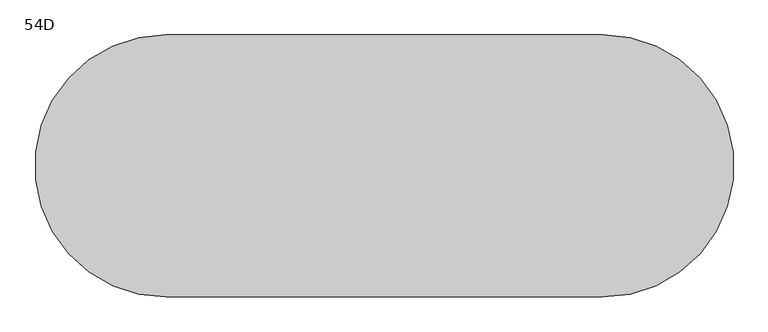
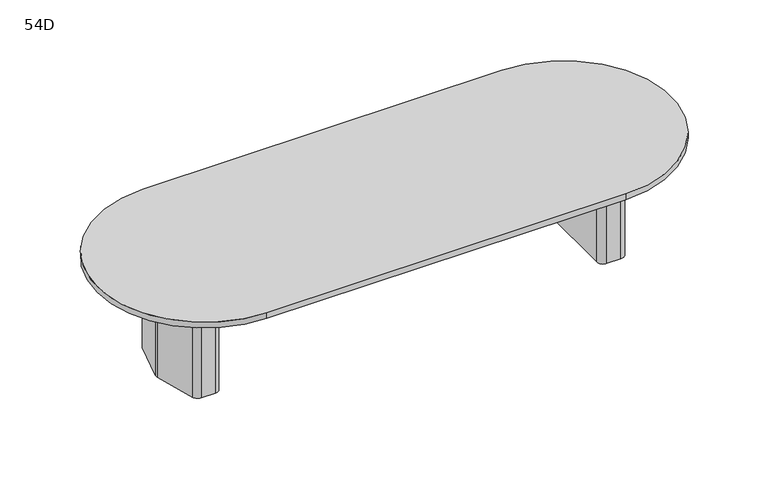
"""IFC4 building model written with IfcOpenShell, lengths in millimetres: furniture geometry, Coalesse_AM_Table_Conference_ETable2_Racetrack_12ft_TwoBase : 54D."""

from ifc_helpers import new_model, si_unit, point, frame, frame_2d, origin, place, context, project, spatial, polyline, circle_curve, trimmed, segment, composite_curve, outline, extrude, source, transform, mapped, element, save
from ifc_brep_helpers import plane_surface, cylinder_surface, revolved_surface, advanced_brep


def furniture_54d_fdcc5884(model_context):
    return source(origin(), model_context, "Body", "SolidModel", [
        advanced_brep(
        [(1370.224548, 274.2093613, 698.5), (1330.3579246, 304.8, 698.5), (1241.425, 304.8, 698.5), (1200.15, 263.525, 698.5), (1200.15, -263.525, 698.5), (1241.425, -304.8, 698.5), (1330.3579246, -304.8, 698.5), (1370.224548, -274.2093613, 698.5), (1440.8503901, -10.6333708, 698.5), (1440.8503901, 10.6333708, 698.5), (1238.25, -206.375, 698.5), (1238.25, 206.375, 698.5), (1263.65, 231.775, 698.5), (1322.6608422, 231.775, 698.5), (1347.195338, 212.9490792, 698.5), (1385.8875, 68.54974, 698.5), (1385.8875, -68.54974, 698.5), (1347.195338, -212.9490792, 698.5), (1322.6608422, -231.775, 698.5), (1263.65, -231.775, 698.5), (1370.224548, 274.2093613, 3.175), (1440.8503901, 10.6333708, 3.175), (1440.8503901, -10.6333708, 3.175), (1370.224548, -274.2093613, 3.175), (1330.3579246, -304.8, 3.175), (1241.425, -304.8, 3.175), (1200.15, -263.525, 3.175), (1200.15, 263.525, 3.175), (1241.425, 304.8, 3.175), (1330.3579246, 304.8, 3.175), (1359.4625859, 216.2361187, 3.175), (1322.6608422, 244.475, 3.175), (1263.65, 244.475, 3.175), (1225.55, 206.375, 3.175), (1225.55, -206.375, 3.175), (1263.65, -244.475, 3.175), (1322.6608422, -244.475, 3.175), (1359.4625859, -216.2361187, 3.175), (1398.5875, -70.2217466, 3.175), (1398.5875, 70.2217466, 3.175), (1263.65, -231.775, 3.175), (1238.25, -206.375, 3.175), (1322.6608422, -231.775, 3.175), (1347.195338, -212.9490792, 3.175), (1385.8875, -68.54974, 3.175), (1385.8875, 68.54974, 3.175), (1347.195338, 212.9490792, 3.175), (1322.6608422, 231.775, 3.175), (1263.65, 231.775, 3.175), (1238.25, 206.375, 3.175), (1359.4625859, 216.2361187, 0.0), (1398.5875, 70.2217466, 0.0), (1398.5875, -70.2217466, 0.0), (1359.4625859, -216.2361187, 0.0), (1322.6608422, -244.475, 0.0), (1263.65, -244.475, 0.0), (1225.55, -206.375, 0.0), (1225.55, 206.375, 0.0), (1263.65, 244.475, 0.0), (1322.6608422, 244.475, 0.0)],
        [
            (0, 1, circle_curve(frame((1330.3579246, 263.5270004, 698.5), z_axis=(0.0, 0.0, 1.0), x_axis=(-1.0, 0.0, 0.0)), 41.2729996)),
            (1, 2),
            (2, 3, circle_curve(frame((1241.425, 263.525, 698.5), z_axis=(0.0, 0.0, 1.0), x_axis=(-1.0, 0.0, 0.0)), 41.275)),
            (3, 4),
            (4, 5, circle_curve(frame((1241.425, -263.525, 698.5), z_axis=(0.0, 0.0, 1.0), x_axis=(-1.0, 0.0, 0.0)), 41.275)),
            (5, 6),
            (6, 7, circle_curve(frame((1330.3579246, -263.5270004, 698.5), z_axis=(0.0, 0.0, 1.0), x_axis=(-1.0, 0.0, 0.0)), 41.2729996)),
            (7, 8),
            (8, 9, circle_curve(frame((1401.1665979, 0.0, 698.5), z_axis=(0.0, 0.0, 1.0), x_axis=(-1.0, 0.0, 0.0)), 41.0837187)),
            (9, 0),
            (10, 11),
            (11, 12, circle_curve(frame((1263.65, 206.375, 698.5), z_axis=(0.0, 0.0, -1.0), x_axis=(-1.0, 0.0, 0.0)), 25.4)),
            (12, 13),
            (13, 14, circle_curve(frame((1322.6608422, 206.375, 698.5), z_axis=(0.0, 0.0, -1.0), x_axis=(-1.0, 0.0, 0.0)), 25.4)),
            (14, 15),
            (15, 16),
            (16, 17),
            (17, 18, circle_curve(frame((1322.6608422, -206.375, 698.5), z_axis=(0.0, 0.0, -1.0), x_axis=(-1.0, 0.0, 0.0)), 25.4)),
            (18, 19),
            (19, 10, circle_curve(frame((1263.65, -206.375, 698.5), z_axis=(0.0, 0.0, -1.0), x_axis=(-1.0, 0.0, 0.0)), 25.4)),
            (20, 21),
            (21, 22, circle_curve(frame((1401.1665979, 0.0, 3.175), z_axis=(0.0, 0.0, -1.0), x_axis=(-1.0, 0.0, 0.0)), 41.0837187)),
            (22, 23),
            (23, 24, circle_curve(frame((1330.3579246, -263.5270004, 3.175), z_axis=(0.0, 0.0, -1.0), x_axis=(-1.0, 0.0, 0.0)), 41.2729996)),
            (24, 25),
            (25, 26, circle_curve(frame((1241.425, -263.525, 3.175), z_axis=(0.0, 0.0, -1.0), x_axis=(-1.0, 0.0, 0.0)), 41.275)),
            (26, 27),
            (27, 28, circle_curve(frame((1241.425, 263.525, 3.175), z_axis=(0.0, 0.0, -1.0), x_axis=(-1.0, 0.0, 0.0)), 41.275)),
            (28, 29),
            (29, 20, circle_curve(frame((1330.3579246, 263.5270004, 3.175), z_axis=(0.0, 0.0, -1.0), x_axis=(-1.0, 0.0, 0.0)), 41.2729996)),
            (30, 31, circle_curve(frame((1322.6608422, 206.375, 3.175), z_axis=(0.0, 0.0, 1.0), x_axis=(-1.0, 0.0, 0.0)), 38.1)),
            (31, 32),
            (32, 33, circle_curve(frame((1263.65, 206.375, 3.175), z_axis=(0.0, 0.0, 1.0), x_axis=(-1.0, 0.0, 0.0)), 38.1)),
            (33, 34),
            (34, 35, circle_curve(frame((1263.65, -206.375, 3.175), z_axis=(0.0, 0.0, 1.0), x_axis=(-1.0, 0.0, 0.0)), 38.1)),
            (35, 36),
            (36, 37, circle_curve(frame((1322.6608422, -206.375, 3.175), z_axis=(0.0, 0.0, 1.0), x_axis=(-1.0, 0.0, 0.0)), 38.1)),
            (37, 38),
            (38, 39),
            (39, 30),
            (9, 21),
            (20, 0),
            (8, 22),
            (7, 23),
            (6, 24),
            (5, 25),
            (4, 26),
            (3, 27),
            (2, 28),
            (1, 29),
            (19, 40),
            (40, 41, circle_curve(frame((1263.65, -206.375, 3.175), z_axis=(0.0, 0.0, -1.0), x_axis=(-1.0, 0.0, 0.0)), 25.4)),
            (41, 10),
            (18, 42),
            (42, 40),
            (17, 43),
            (43, 42, circle_curve(frame((1322.6608422, -206.375, 3.175), z_axis=(0.0, 0.0, -1.0), x_axis=(-1.0, 0.0, 0.0)), 25.4)),
            (16, 44),
            (44, 43),
            (15, 45),
            (45, 44),
            (14, 46),
            (46, 45),
            (13, 47),
            (47, 46, circle_curve(frame((1322.6608422, 206.375, 3.175), z_axis=(0.0, 0.0, -1.0), x_axis=(-1.0, 0.0, 0.0)), 25.4)),
            (12, 48),
            (48, 47),
            (11, 49),
            (49, 48, circle_curve(frame((1263.65, 206.375, 3.175), z_axis=(0.0, 0.0, -1.0), x_axis=(-1.0, 0.0, 0.0)), 25.4)),
            (41, 49),
            (50, 51),
            (51, 52),
            (52, 53),
            (53, 54, circle_curve(frame((1322.6608422, -206.375, 0.0), z_axis=(0.0, 0.0, -1.0), x_axis=(-1.0, 0.0, 0.0)), 38.1)),
            (54, 55),
            (55, 56, circle_curve(frame((1263.65, -206.375, 0.0), z_axis=(0.0, 0.0, -1.0), x_axis=(-1.0, 0.0, 0.0)), 38.1)),
            (56, 57),
            (57, 58, circle_curve(frame((1263.65, 206.375, 0.0), z_axis=(0.0, 0.0, -1.0), x_axis=(-1.0, 0.0, 0.0)), 38.1)),
            (58, 59),
            (59, 50, circle_curve(frame((1322.6608422, 206.375, 0.0), z_axis=(0.0, 0.0, -1.0), x_axis=(-1.0, 0.0, 0.0)), 38.1)),
            (50, 30),
            (39, 51),
            (38, 52),
            (37, 53),
            (36, 54),
            (35, 55),
            (34, 56),
            (33, 57),
            (32, 58),
            (31, 59),
        ],
        [
            plane_surface(frame((1440.8374275, 10.6817473, 698.5), z_axis=(0.0, 0.0, 1.0000000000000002), x_axis=(0.25882201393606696, -0.9659250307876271, 0.0))),
            plane_surface(frame((1440.8374275, 10.6817473, 3.175), z_axis=(0.0, 0.0, -1.0000000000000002), x_axis=(-0.25882201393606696, 0.9659250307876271, 0.0))),
            plane_surface(frame((1370.224548, 274.2093613, 698.5), z_axis=(0.9659250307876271, 0.25882201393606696, 0.0), x_axis=(0.0, 0.0, -1.0))),
            cylinder_surface(frame((1401.1665979, 0.0, 3.175), z_axis=(0.0, 0.0, 1.0), x_axis=(-1.0, 0.0, 0.0)), 41.0837187),
            plane_surface(frame((1440.8503901, -10.6333708, 698.5), z_axis=(0.9659250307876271, -0.2588220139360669, 0.0), x_axis=(0.0, 0.0, -1.0))),
            cylinder_surface(frame((1330.3579246, -263.5270004, 3.175), z_axis=(0.0, 0.0, 1.0), x_axis=(-1.0, 0.0, 0.0)), 41.2729996),
            plane_surface(frame((1330.3579246, -304.8, 698.5), z_axis=(0.0, -1.0, 0.0), x_axis=(0.0, 0.0, -1.0))),
            cylinder_surface(frame((1241.425, -263.525, 3.175), z_axis=(0.0, 0.0, 1.0), x_axis=(-1.0, 0.0, 0.0)), 41.275),
            plane_surface(frame((1200.15, -263.525, 698.5), z_axis=(-1.0, 0.0, 0.0), x_axis=(0.0, 0.0, -1.0))),
            cylinder_surface(frame((1241.425, 263.525, 3.175), z_axis=(0.0, 0.0, 1.0), x_axis=(-1.0, 0.0, 0.0)), 41.275),
            plane_surface(frame((1241.425, 304.8, 698.5), z_axis=(0.0, 1.0, 0.0), x_axis=(0.0, 0.0, -1.0))),
            cylinder_surface(frame((1330.3579246, 263.5270004, 3.175), z_axis=(0.0, 0.0, 1.0), x_axis=(-1.0, 0.0, 0.0)), 41.2729996),
            revolved_surface(polyline([(1238.25, -206.375, 3.175), (1238.25, -206.375, 698.5)]), (1263.65, -206.375, 0.0), (0.0, 0.0, -1.0)),
            plane_surface(frame((1263.65, -231.775, 698.5), z_axis=(0.0, 1.0, 0.0), x_axis=(0.0, 0.0, -1.0))),
            revolved_surface(polyline([(1297.2608421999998, -206.375, 3.175), (1297.2608421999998, -206.375, 698.5)]), (1322.6608422, -206.375, 0.0), (0.0, 0.0, -1.0)),
            plane_surface(frame((1347.195338, -212.9490792, 698.5), z_axis=(-0.9659250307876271, 0.2588220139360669, 0.0), x_axis=(0.0, 0.0, -1.0))),
            plane_surface(frame((1385.8875, -68.54974, 698.5), z_axis=(-1.0, 0.0, 0.0), x_axis=(0.0, 0.0, -1.0))),
            plane_surface(frame((1385.8875, 68.54974, 698.5), z_axis=(-0.9659250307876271, -0.25882201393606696, 0.0), x_axis=(0.0, 0.0, -1.0))),
            revolved_surface(polyline([(1297.2608421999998, 206.375, 3.175), (1297.2608421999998, 206.375, 698.5)]), (1322.6608422, 206.375, 0.0), (0.0, 0.0, -1.0)),
            plane_surface(frame((1322.6608422, 231.775, 698.5), z_axis=(0.0, -1.0, 0.0), x_axis=(0.0, 0.0, -1.0))),
            revolved_surface(polyline([(1238.25, 206.375, 3.175), (1238.25, 206.375, 698.5)]), (1263.65, 206.375, 0.0), (0.0, 0.0, -1.0)),
            plane_surface(frame((1238.25, 206.375, 698.5), z_axis=(1.0, 0.0, 0.0), x_axis=(0.0, 0.0, -1.0))),
            plane_surface(frame((1398.1547479, 71.8367796, 3.175), z_axis=(0.0, 0.0, 1.0), x_axis=(0.25882201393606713, -0.965925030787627, 0.0))),
            plane_surface(frame((1398.1547479, 71.8367796, 0.0), z_axis=(0.0, 0.0, -1.0), x_axis=(-0.25882201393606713, 0.965925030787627, 0.0))),
            plane_surface(frame((1359.4625859, 216.2361187, 3.175), z_axis=(0.965925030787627, 0.25882201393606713, 0.0), x_axis=(0.0, 0.0, -1.0))),
            plane_surface(frame((1398.5875, 70.2217466, 3.175), z_axis=(1.0, 0.0, 0.0), x_axis=(0.0, 0.0, -1.0))),
            plane_surface(frame((1398.5875, -70.2217466, 3.175), z_axis=(0.9659250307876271, -0.2588220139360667, 0.0), x_axis=(0.0, 0.0, -1.0))),
            cylinder_surface(frame((1322.6608422, -206.375, 0.0), z_axis=(0.0, 0.0, 1.0), x_axis=(-1.0, 0.0, 0.0)), 38.1),
            plane_surface(frame((1322.6608422, -244.475, 3.175), z_axis=(0.0, -1.0, 0.0), x_axis=(0.0, 0.0, -1.0))),
            cylinder_surface(frame((1263.65, -206.375, 0.0), z_axis=(0.0, 0.0, 1.0), x_axis=(-1.0, 0.0, 0.0)), 38.1),
            plane_surface(frame((1225.55, -206.375, 3.175), z_axis=(-1.0, 0.0, 0.0), x_axis=(0.0, 0.0, -1.0))),
            cylinder_surface(frame((1263.65, 206.375, 0.0), z_axis=(0.0, 0.0, 1.0), x_axis=(-1.0, 0.0, 0.0)), 38.1),
            plane_surface(frame((1263.65, 244.475, 3.175), z_axis=(0.0, 1.0, 0.0), x_axis=(0.0, 0.0, -1.0))),
            cylinder_surface(frame((1322.6608422, 206.375, 0.0), z_axis=(0.0, 0.0, 1.0), x_axis=(-1.0, 0.0, 0.0)), 38.1),
        ],
        [
            (0, [[1, 2, 3, 4, 5, 6, 7, 8, 9, 10], [11, 12, 13, 14, 15, 16, 17, 18, 19, 20]]),
            (1, [[21, 22, 23, 24, 25, 26, 27, 28, 29, 30], [31, 32, 33, 34, 35, 36, 37, 38, 39, 40]]),
            (2, [[41, -21, 42, -10]]),
            (3, [[43, -22, -41, -9]]),
            (4, [[44, -23, -43, -8]]),
            (5, [[45, -24, -44, -7]]),
            (6, [[46, -25, -45, -6]]),
            (7, [[47, -26, -46, -5]]),
            (8, [[48, -27, -47, -4]]),
            (9, [[49, -28, -48, -3]]),
            (10, [[50, -29, -49, -2]]),
            (11, [[-42, -30, -50, -1]]),
            (12, [[51, 52, 53, -20]]),
            (13, [[54, 55, -51, -19]]),
            (14, [[56, 57, -54, -18]]),
            (15, [[58, 59, -56, -17]]),
            (16, [[60, 61, -58, -16]]),
            (17, [[62, 63, -60, -15]]),
            (18, [[64, 65, -62, -14]]),
            (19, [[66, 67, -64, -13]]),
            (20, [[68, 69, -66, -12]]),
            (21, [[-53, 70, -68, -11]]),
            (22, [[-55, -57, -59, -61, -63, -65, -67, -69, -70, -52]]),
            (23, [[71, 72, 73, 74, 75, 76, 77, 78, 79, 80]]),
            (24, [[81, -40, 82, -71]]),
            (25, [[-82, -39, 83, -72]]),
            (26, [[-83, -38, 84, -73]]),
            (27, [[-84, -37, 85, -74]]),
            (28, [[-85, -36, 86, -75]]),
            (29, [[-86, -35, 87, -76]]),
            (30, [[-87, -34, 88, -77]]),
            (31, [[-88, -33, 89, -78]]),
            (32, [[-89, -32, 90, -79]]),
            (33, [[-90, -31, -81, -80]]),
        ],
    ),
        advanced_brep(
        [(-1381.337048, 274.2093613, 698.5), (-1451.9628901, 10.6333708, 698.5), (-1451.9628901, -10.6333708, 698.5), (-1381.337048, -274.2093613, 698.5), (-1341.4704246, -304.8, 698.5), (-1252.5375, -304.8, 698.5), (-1211.2625, -263.525, 698.5), (-1211.2625, 263.525, 698.5), (-1252.5375, 304.8, 698.5), (-1341.4704246, 304.8, 698.5), (-1249.3625, -206.375, 698.5), (-1274.7625, -231.775, 698.5), (-1333.7733422, -231.775, 698.5), (-1358.307838, -212.9490792, 698.5), (-1397.0, -68.54974, 698.5), (-1397.0, 68.54974, 698.5), (-1358.307838, 212.9490792, 698.5), (-1333.7733422, 231.775, 698.5), (-1274.7625, 231.775, 698.5), (-1249.3625, 206.375, 698.5), (-1381.337048, 274.2093613, 3.175), (-1341.4704246, 304.8, 3.175), (-1252.5375, 304.8, 3.175), (-1211.2625, 263.525, 3.175), (-1211.2625, -263.525, 3.175), (-1252.5375, -304.8, 3.175), (-1341.4704246, -304.8, 3.175), (-1381.337048, -274.2093613, 3.175), (-1451.9628901, -10.6333708, 3.175), (-1451.9628901, 10.6333708, 3.175), (-1370.5750859, 216.2361187, 3.175), (-1409.7, 70.2217466, 3.175), (-1409.7, -70.2217466, 3.175), (-1370.5750859, -216.2361187, 3.175), (-1333.7733422, -244.475, 3.175), (-1274.7625, -244.475, 3.175), (-1236.6625, -206.375, 3.175), (-1236.6625, 206.375, 3.175), (-1274.7625, 244.475, 3.175), (-1333.7733422, 244.475, 3.175), (-1249.3625, -206.375, 3.175), (-1274.7625, -231.775, 3.175), (-1333.7733422, -231.775, 3.175), (-1358.307838, -212.9490792, 3.175), (-1397.0, -68.54974, 3.175), (-1397.0, 68.54974, 3.175), (-1358.307838, 212.9490792, 3.175), (-1333.7733422, 231.775, 3.175), (-1274.7625, 231.775, 3.175), (-1249.3625, 206.375, 3.175), (-1370.5750859, 216.2361187, 0.0), (-1333.7733422, 244.475, 0.0), (-1274.7625, 244.475, 0.0), (-1236.6625, 206.375, 0.0), (-1236.6625, -206.375, 0.0), (-1274.7625, -244.475, 0.0), (-1333.7733422, -244.475, 0.0), (-1370.5750859, -216.2361187, 0.0), (-1409.7, -70.2217466, 0.0), (-1409.7, 70.2217466, 0.0)],
        [
            (0, 1),
            (1, 2, circle_curve(frame((-1412.2790979, 0.0, 698.5), z_axis=(0.0, 0.0, 1.0), x_axis=(1.0, 0.0, 0.0)), 41.0837187)),
            (2, 3),
            (3, 4, circle_curve(frame((-1341.4704246, -263.5270004, 698.5), z_axis=(0.0, 0.0, 1.0), x_axis=(1.0, 0.0, 0.0)), 41.2729996)),
            (4, 5),
            (5, 6, circle_curve(frame((-1252.5375, -263.525, 698.5), z_axis=(0.0, 0.0, 1.0), x_axis=(1.0, 0.0, 0.0)), 41.275)),
            (6, 7),
            (7, 8, circle_curve(frame((-1252.5375, 263.525, 698.5), z_axis=(0.0, 0.0, 1.0), x_axis=(1.0, 0.0, 0.0)), 41.275)),
            (8, 9),
            (9, 0, circle_curve(frame((-1341.4704246, 263.5270004, 698.5), z_axis=(0.0, 0.0, 1.0), x_axis=(1.0, 0.0, 0.0)), 41.2729996)),
            (10, 11, circle_curve(frame((-1274.7625, -206.375, 698.5), z_axis=(0.0, 0.0, -1.0), x_axis=(1.0, 0.0, 0.0)), 25.4)),
            (11, 12),
            (12, 13, circle_curve(frame((-1333.7733422, -206.375, 698.5), z_axis=(0.0, 0.0, -1.0), x_axis=(1.0, 0.0, 0.0)), 25.4)),
            (13, 14),
            (14, 15),
            (15, 16),
            (16, 17, circle_curve(frame((-1333.7733422, 206.375, 698.5), z_axis=(0.0, 0.0, -1.0), x_axis=(1.0, 0.0, 0.0)), 25.4)),
            (17, 18),
            (18, 19, circle_curve(frame((-1274.7625, 206.375, 698.5), z_axis=(0.0, 0.0, -1.0), x_axis=(1.0, 0.0, 0.0)), 25.4)),
            (19, 10),
            (20, 21, circle_curve(frame((-1341.4704246, 263.5270004, 3.175), z_axis=(0.0, 0.0, -1.0), x_axis=(1.0, 0.0, 0.0)), 41.2729996)),
            (21, 22),
            (22, 23, circle_curve(frame((-1252.5375, 263.525, 3.175), z_axis=(0.0, 0.0, -1.0), x_axis=(1.0, 0.0, 0.0)), 41.275)),
            (23, 24),
            (24, 25, circle_curve(frame((-1252.5375, -263.525, 3.175), z_axis=(0.0, 0.0, -1.0), x_axis=(1.0, 0.0, 0.0)), 41.275)),
            (25, 26),
            (26, 27, circle_curve(frame((-1341.4704246, -263.5270004, 3.175), z_axis=(0.0, 0.0, -1.0), x_axis=(1.0, 0.0, 0.0)), 41.2729996)),
            (27, 28),
            (28, 29, circle_curve(frame((-1412.2790979, 0.0, 3.175), z_axis=(0.0, 0.0, -1.0), x_axis=(1.0, 0.0, 0.0)), 41.0837187)),
            (29, 20),
            (30, 31),
            (31, 32),
            (32, 33),
            (33, 34, circle_curve(frame((-1333.7733422, -206.375, 3.175), z_axis=(0.0, 0.0, 1.0), x_axis=(1.0, 0.0, 0.0)), 38.1)),
            (34, 35),
            (35, 36, circle_curve(frame((-1274.7625, -206.375, 3.175), z_axis=(0.0, 0.0, 1.0), x_axis=(1.0, 0.0, 0.0)), 38.1)),
            (36, 37),
            (37, 38, circle_curve(frame((-1274.7625, 206.375, 3.175), z_axis=(0.0, 0.0, 1.0), x_axis=(1.0, 0.0, 0.0)), 38.1)),
            (38, 39),
            (39, 30, circle_curve(frame((-1333.7733422, 206.375, 3.175), z_axis=(0.0, 0.0, 1.0), x_axis=(1.0, 0.0, 0.0)), 38.1)),
            (0, 20),
            (29, 1),
            (28, 2),
            (27, 3),
            (26, 4),
            (25, 5),
            (24, 6),
            (23, 7),
            (22, 8),
            (21, 9),
            (10, 40),
            (40, 41, circle_curve(frame((-1274.7625, -206.375, 3.175), z_axis=(0.0, 0.0, -1.0), x_axis=(1.0, 0.0, 0.0)), 25.4)),
            (41, 11),
            (41, 42),
            (42, 12),
            (42, 43, circle_curve(frame((-1333.7733422, -206.375, 3.175), z_axis=(0.0, 0.0, -1.0), x_axis=(1.0, 0.0, 0.0)), 25.4)),
            (43, 13),
            (43, 44),
            (44, 14),
            (44, 45),
            (45, 15),
            (45, 46),
            (46, 16),
            (46, 47, circle_curve(frame((-1333.7733422, 206.375, 3.175), z_axis=(0.0, 0.0, -1.0), x_axis=(1.0, 0.0, 0.0)), 25.4)),
            (47, 17),
            (47, 48),
            (48, 18),
            (48, 49, circle_curve(frame((-1274.7625, 206.375, 3.175), z_axis=(0.0, 0.0, -1.0), x_axis=(1.0, 0.0, 0.0)), 25.4)),
            (49, 19),
            (49, 40),
            (50, 51, circle_curve(frame((-1333.7733422, 206.375, 0.0), z_axis=(0.0, 0.0, -1.0), x_axis=(1.0, 0.0, 0.0)), 38.1)),
            (51, 52),
            (52, 53, circle_curve(frame((-1274.7625, 206.375, 0.0), z_axis=(0.0, 0.0, -1.0), x_axis=(1.0, 0.0, 0.0)), 38.1)),
            (53, 54),
            (54, 55, circle_curve(frame((-1274.7625, -206.375, 0.0), z_axis=(0.0, 0.0, -1.0), x_axis=(1.0, 0.0, 0.0)), 38.1)),
            (55, 56),
            (56, 57, circle_curve(frame((-1333.7733422, -206.375, 0.0), z_axis=(0.0, 0.0, -1.0), x_axis=(1.0, 0.0, 0.0)), 38.1)),
            (57, 58),
            (58, 59),
            (59, 50),
            (59, 31),
            (30, 50),
            (58, 32),
            (57, 33),
            (56, 34),
            (55, 35),
            (54, 36),
            (53, 37),
            (52, 38),
            (51, 39),
        ],
        [
            plane_surface(frame((-1451.9499275, 10.6817473, 698.5), z_axis=(0.0, 0.0, 1.0000000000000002), x_axis=(-0.25882201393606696, -0.9659250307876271, 0.0))),
            plane_surface(frame((-1451.9499275, 10.6817473, 3.175), z_axis=(0.0, 0.0, -1.0000000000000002), x_axis=(0.25882201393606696, 0.9659250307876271, 0.0))),
            plane_surface(frame((-1381.337048, 274.2093613, 698.5), z_axis=(-0.9659250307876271, 0.25882201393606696, 0.0), x_axis=(0.0, 0.0, -1.0))),
            cylinder_surface(frame((-1412.2790979, 0.0, 3.175), z_axis=(0.0, 0.0, 1.0), x_axis=(1.0, 0.0, 0.0)), 41.0837187),
            plane_surface(frame((-1451.9628901, -10.6333708, 698.5), z_axis=(-0.9659250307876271, -0.2588220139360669, 0.0), x_axis=(0.0, 0.0, -1.0))),
            cylinder_surface(frame((-1341.4704246, -263.5270004, 3.175), z_axis=(0.0, 0.0, 1.0), x_axis=(1.0, 0.0, 0.0)), 41.2729996),
            plane_surface(frame((-1341.4704246, -304.8, 698.5), z_axis=(0.0, -1.0, 0.0), x_axis=(0.0, 0.0, -1.0))),
            cylinder_surface(frame((-1252.5375, -263.525, 3.175), z_axis=(0.0, 0.0, 1.0), x_axis=(1.0, 0.0, 0.0)), 41.275),
            plane_surface(frame((-1211.2625, -263.525, 698.5), z_axis=(1.0, 0.0, 0.0), x_axis=(0.0, 0.0, -1.0))),
            cylinder_surface(frame((-1252.5375, 263.525, 3.175), z_axis=(0.0, 0.0, 1.0), x_axis=(1.0, 0.0, 0.0)), 41.275),
            plane_surface(frame((-1252.5375, 304.8, 698.5), z_axis=(0.0, 1.0, 0.0), x_axis=(0.0, 0.0, -1.0))),
            cylinder_surface(frame((-1341.4704246, 263.5270004, 3.175), z_axis=(0.0, 0.0, 1.0), x_axis=(1.0, 0.0, 0.0)), 41.2729996),
            revolved_surface(polyline([(-1249.3625, -206.375, 3.175), (-1249.3625, -206.375, 698.5)]), (-1274.7625, -206.375, 0.0), (0.0, 0.0, -1.0)),
            plane_surface(frame((-1274.7625, -231.775, 698.5), z_axis=(0.0, 1.0, 0.0), x_axis=(0.0, 0.0, -1.0))),
            revolved_surface(polyline([(-1308.3733421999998, -206.375, 3.175), (-1308.3733421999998, -206.375, 698.5)]), (-1333.7733422, -206.375, 0.0), (0.0, 0.0, -1.0)),
            plane_surface(frame((-1358.307838, -212.9490792, 698.5), z_axis=(0.9659250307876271, 0.2588220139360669, 0.0), x_axis=(0.0, 0.0, -1.0))),
            plane_surface(frame((-1397.0, -68.54974, 698.5), z_axis=(1.0, 0.0, 0.0), x_axis=(0.0, 0.0, -1.0))),
            plane_surface(frame((-1397.0, 68.54974, 698.5), z_axis=(0.9659250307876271, -0.25882201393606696, 0.0), x_axis=(0.0, 0.0, -1.0))),
            revolved_surface(polyline([(-1308.3733421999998, 206.375, 3.175), (-1308.3733421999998, 206.375, 698.5)]), (-1333.7733422, 206.375, 0.0), (0.0, 0.0, -1.0)),
            plane_surface(frame((-1333.7733422, 231.775, 698.5), z_axis=(0.0, -1.0, 0.0), x_axis=(0.0, 0.0, -1.0))),
            revolved_surface(polyline([(-1249.3625, 206.375, 3.175), (-1249.3625, 206.375, 698.5)]), (-1274.7625, 206.375, 0.0), (0.0, 0.0, -1.0)),
            plane_surface(frame((-1249.3625, 206.375, 698.5), z_axis=(-1.0, 0.0, 0.0), x_axis=(0.0, 0.0, -1.0))),
            plane_surface(frame((-1409.2672479, 71.8367796, 3.175), z_axis=(0.0, 0.0, 1.0), x_axis=(-0.25882201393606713, -0.965925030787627, 0.0))),
            plane_surface(frame((-1409.2672479, 71.8367796, 0.0), z_axis=(0.0, 0.0, -1.0), x_axis=(0.25882201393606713, 0.965925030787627, 0.0))),
            plane_surface(frame((-1370.5750859, 216.2361187, 3.175), z_axis=(-0.965925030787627, 0.25882201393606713, 0.0), x_axis=(0.0, 0.0, -1.0))),
            plane_surface(frame((-1409.7, 70.2217466, 3.175), z_axis=(-1.0, 0.0, 0.0), x_axis=(0.0, 0.0, -1.0))),
            plane_surface(frame((-1409.7, -70.2217466, 3.175), z_axis=(-0.9659250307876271, -0.2588220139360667, 0.0), x_axis=(0.0, 0.0, -1.0))),
            cylinder_surface(frame((-1333.7733422, -206.375, 0.0), z_axis=(0.0, 0.0, 1.0), x_axis=(1.0, 0.0, 0.0)), 38.1),
            plane_surface(frame((-1333.7733422, -244.475, 3.175), z_axis=(0.0, -1.0, 0.0), x_axis=(0.0, 0.0, -1.0))),
            cylinder_surface(frame((-1274.7625, -206.375, 0.0), z_axis=(0.0, 0.0, 1.0), x_axis=(1.0, 0.0, 0.0)), 38.1),
            plane_surface(frame((-1236.6625, -206.375, 3.175), z_axis=(1.0, 0.0, 0.0), x_axis=(0.0, 0.0, -1.0))),
            cylinder_surface(frame((-1274.7625, 206.375, 0.0), z_axis=(0.0, 0.0, 1.0), x_axis=(1.0, 0.0, 0.0)), 38.1),
            plane_surface(frame((-1274.7625, 244.475, 3.175), z_axis=(0.0, 1.0, 0.0), x_axis=(0.0, 0.0, -1.0))),
            cylinder_surface(frame((-1333.7733422, 206.375, 0.0), z_axis=(0.0, 0.0, 1.0), x_axis=(1.0, 0.0, 0.0)), 38.1),
        ],
        [
            (0, [[1, 2, 3, 4, 5, 6, 7, 8, 9, 10], [11, 12, 13, 14, 15, 16, 17, 18, 19, 20]]),
            (1, [[21, 22, 23, 24, 25, 26, 27, 28, 29, 30], [31, 32, 33, 34, 35, 36, 37, 38, 39, 40]]),
            (2, [[-1, 41, -30, 42]]),
            (3, [[-2, -42, -29, 43]]),
            (4, [[-3, -43, -28, 44]]),
            (5, [[-4, -44, -27, 45]]),
            (6, [[-5, -45, -26, 46]]),
            (7, [[-6, -46, -25, 47]]),
            (8, [[-7, -47, -24, 48]]),
            (9, [[-8, -48, -23, 49]]),
            (10, [[-9, -49, -22, 50]]),
            (11, [[-10, -50, -21, -41]]),
            (12, [[-11, 51, 52, 53]]),
            (13, [[-12, -53, 54, 55]]),
            (14, [[-13, -55, 56, 57]]),
            (15, [[-14, -57, 58, 59]]),
            (16, [[-15, -59, 60, 61]]),
            (17, [[-16, -61, 62, 63]]),
            (18, [[-17, -63, 64, 65]]),
            (19, [[-18, -65, 66, 67]]),
            (20, [[-19, -67, 68, 69]]),
            (21, [[-20, -69, 70, -51]]),
            (22, [[-52, -70, -68, -66, -64, -62, -60, -58, -56, -54]]),
            (23, [[71, 72, 73, 74, 75, 76, 77, 78, 79, 80]]),
            (24, [[-80, 81, -31, 82]]),
            (25, [[-79, 83, -32, -81]]),
            (26, [[-78, 84, -33, -83]]),
            (27, [[-77, 85, -34, -84]]),
            (28, [[-76, 86, -35, -85]]),
            (29, [[-75, 87, -36, -86]]),
            (30, [[-74, 88, -37, -87]]),
            (31, [[-73, 89, -38, -88]]),
            (32, [[-72, 90, -39, -89]]),
            (33, [[-71, -82, -40, -90]]),
        ],
    ),
        extrude(outline(polyline([(96.8375, 698.5), (103.1875, 698.5), (103.1875, 476.25), (-103.1875, 476.25), (-103.1875, 698.5), (-96.8375, 698.5), (-96.8375, 482.6), (96.8375, 482.6), (96.8375, 698.5)])), frame((-1211.2625, 0.0, 0.0), z_axis=(1.0, 0.0, 0.0), x_axis=(0.0, 1.0, 0.0)), (0.0, 0.0, 1.0), 2411.4125),
        extrude(outline(composite_curve([segment(trimmed(circle_curve(frame_2d((-1143.0, 0.0)), 685.8), [point((-1143.0, -685.8))], [point((-1143.0, 685.8))], False, "CARTESIAN"), True, "CONTINUOUS"), segment(polyline([(-1143.0, 685.8), (1143.0, 685.8)]), True, "CONTINUOUS"), segment(trimmed(circle_curve(frame_2d((1143.0, 0.0)), 685.8), [point((1143.0, 685.8))], [point((1143.0, -685.8))], False, "CARTESIAN"), True, "CONTINUOUS"), segment(polyline([(1143.0, -685.8), (-1143.0, -685.8)]), True, "CONTINUOUS")], self_intersect=False)), frame((0.0, 0.0, 698.5), z_axis=(0.0, 0.0, 1.0), x_axis=(1.0, 0.0, 0.0)), (0.0, 0.0, 1.0), 38.1),
    ])


if __name__ == "__main__":
    model = new_model("IFC4")
    model_context = context("Model", 3, world=origin())
    ifc_project = project(units=[si_unit("LENGTHUNIT", "METRE", prefix="MILLI")], contexts=[model_context])
    site = spatial("IfcSite", under=ifc_project)
    building = spatial("IfcBuilding", under=site)
    placement = place(None, origin())
    furniture_54d_shape = furniture_54d_fdcc5884(model_context)
    element("IfcFurniture", 1, ObjectType="Coalesse_AM_Table_Conference_ETable2_Racetrack_12ft_TwoBase : 54D", at=placement, inside=building, context=model_context, shape_type="MappedRepresentation", body=[
        mapped(furniture_54d_shape, transform((0.0, 0.0, 0.0), x_axis=(1.0, 0.0, 0.0), y_axis=(0.0, 1.0, 0.0), z_axis=(0.0, 0.0, 1.0))),
    ])
    save(model, "model.ifc")
